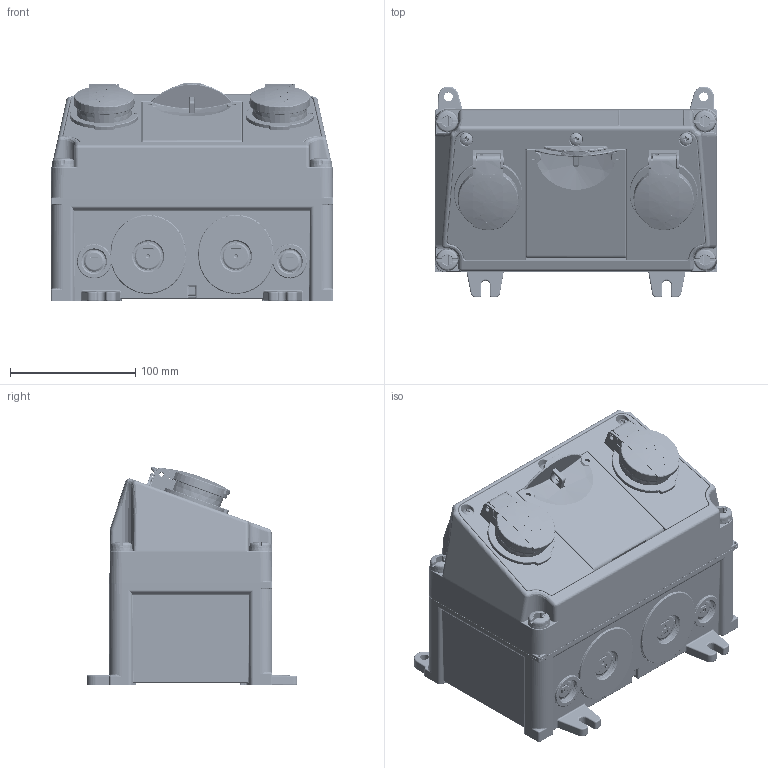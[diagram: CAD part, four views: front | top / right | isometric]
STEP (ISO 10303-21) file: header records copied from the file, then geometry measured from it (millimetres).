
FILE_DESCRIPTION((''),'2;1');
FILE_NAME('910001_ASM','2017-10-05T',('fries'),('MENNEKES'),'PRO/ENGINEER BY PARAMETRIC TECHNOLOGY CORPORATION, 2015440','PRO/ENGINEER BY PARAMETRIC TECHNOLOGY CORPORATION, 2015440','');
FILE_SCHEMA(('AUTOMOTIVE_DESIGN { 1 0 10303 214 1 1 1 1 }'));
Products named in the file (6): 1-4_SW_O_GRAU_1; FI_2POL_2TE_1; LS_1POL_1TE_1; MP_FEN4_44_UNTEN_GRAU_1; AMAXX_SCHUKO_44_BLAU_1; 910001_ASM
Assembly tree (7 placements, depth 2):
  910001_ASM
    1-4_SW_O_GRAU_1
    FI_2POL_2TE_1
    LS_1POL_1TE_1  x2
    MP_FEN4_44_UNTEN_GRAU_1
    AMAXX_SCHUKO_44_BLAU_1  x2
Bounding box: 225 x 168.2 x 174.41 mm (x, y, z)
Volume: 2906102.7 mm3; surface area: 441760 mm2
Topology: 7 solids, 7 shells, 7484 faces, 20454 edges, 13027 vertices
Faces by surface type: plane 3743, cylinder 1948, bspline 658, torus 644, sphere 225, cone 186, extrusion 80
Entity records: 319236 total; most frequent: CARTESIAN_POINT 90863, ORIENTED_EDGE 35302, DIRECTION 31291, PRESENTATION_STYLE_ASSIGNMENT 18355, EDGE_CURVE 17651, STYLED_ITEM 16833, CURVE_STYLE 16409, VERTEX_POINT 11261
